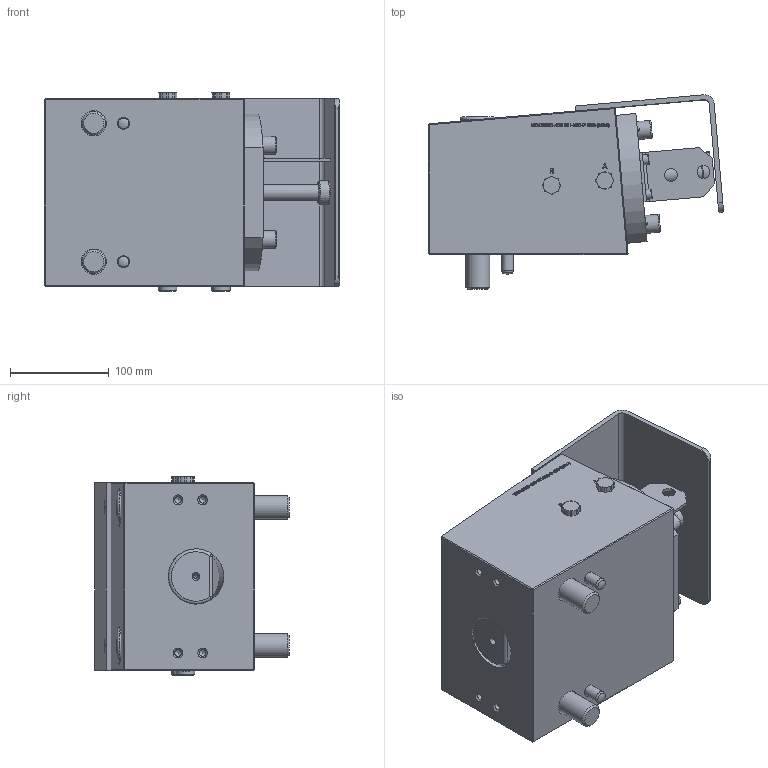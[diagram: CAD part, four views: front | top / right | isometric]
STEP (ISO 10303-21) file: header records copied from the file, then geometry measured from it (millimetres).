
FILE_DESCRIPTION(/* description */ (''),/* implementation_level */ '2;1');
FILE_NAME(/* name */ 'Z:\Standard products\1. QMC Clamping Systems\3. MOD - Mouldclamp\MOD2010\MOD2010-400-RH-500-P-800(M24).stp',/* time_stamp */ '2015-10-14T14:47:29+02:00',/* author */ ('breep'),/* organization */ (''),/* preprocessor_version */ 'ST-DEVELOPER v15.2',/* originating_system */ 'Autodesk Inventor 2014',/* authorisation */ '');
FILE_SCHEMA (('AUTOMOTIVE_DESIGN { 1 0 10303 214 3 1 1 }'));
Length unit declared in the file: millimetre
Products named in the file (1): Part1
Bounding box: 298.65 x 196.38 x 201.1 mm (x, y, z)
Volume: 21101.8 mm3; surface area: 535011.6 mm2
Topology: 19 solids, 22 shells, 1019 faces, 2500 edges, 1618 vertices
Faces by surface type: plane 485, bspline 207, cylinder 180, cone 106, torus 35, sphere 6
Full cylindrical faces by diameter (mm): 3.242 x1, 4 x3, 4.917 x8, 4.918 x2, 6 x10, 6.4 x2, 6.647 x4, 7 x5, 8 x3, 8.5 x1, 9 x2, 10 x2, 10.106 x4, 10.8 x2, 11.2 x2, 11.43 x6, 11.6 x2, 12 x10, 13 x6, 14 x2, 14.376 x1, 16 x3, 16.03 x1, 16.1 x1, 16.25 x1, 16.4 x3, 16.8 x3, 18 x5, 18.8 x2, 19.6 x1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
Entity records: 29776 total; most frequent: CARTESIAN_POINT 7863, ORIENTED_EDGE 4192, DIRECTION 3715, EDGE_CURVE 2089, VERTEX_POINT 1485, EDGE_LOOP 1428, AXIS2_PLACEMENT_3D 1315, LINE 1085
